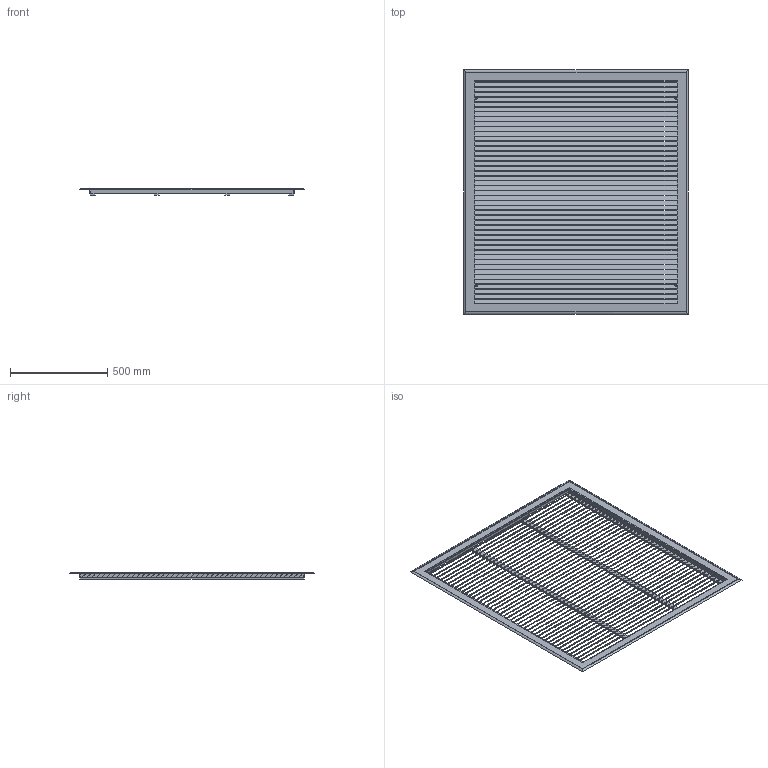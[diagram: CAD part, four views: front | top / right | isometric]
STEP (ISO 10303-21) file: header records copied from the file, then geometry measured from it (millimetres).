
FILE_DESCRIPTION (( 'STEP AP214' ), '1' );
FILE_NAME ('QLG-35-4H.STEP', '2016-07-14T18:18:06', ( 'BMC' ), ( 'Bard Manufacturing Co., Inc.' ), 'SwSTEP 2.0', 'SolidWorks 2016', '' );
FILE_SCHEMA (( 'AUTOMOTIVE_DESIGN' ));
Length unit declared in the file: inch
Products named in the file (1): QLG-35-4H
Bounding box: 1158.88 x 1260.47 x 34.92 mm (x, y, z)
Surface area: 4288466.3 mm2 (no closed solid volume)
Topology: 0 solids, 1 shells, 796 faces, 2671 edges, 1506 vertices
Faces by surface type: plane 772, cylinder 24
Entity records: 28158 total; most frequent: ORIENTED_EDGE 5342, CARTESIAN_POINT 5058, DIRECTION 4261, EDGE_CURVE 2671, LINE 2619, VECTOR 2619, VERTEX_POINT 1506, AXIS2_PLACEMENT_3D 821
